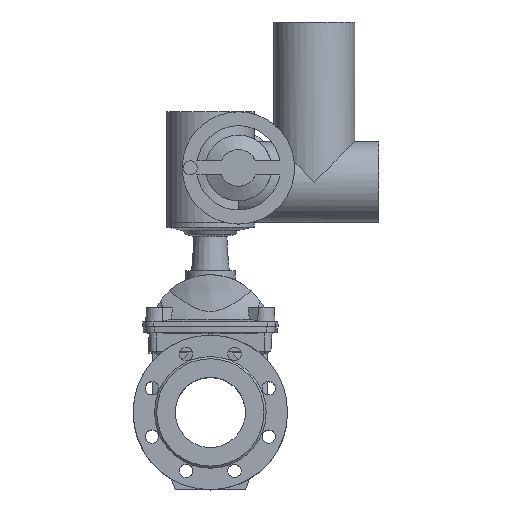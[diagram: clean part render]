
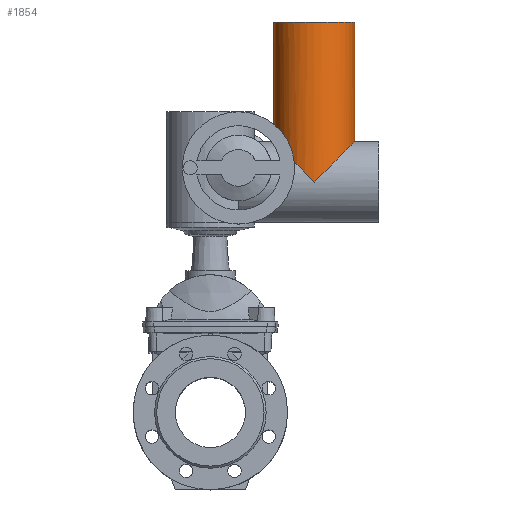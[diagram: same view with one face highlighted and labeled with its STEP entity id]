
A CAD part, top view. The second image highlights one B-rep face of the part: STEP entity #1854.
In plain terms, the highlighted cylindrical face has radius 57.5 mm (diameter 115 mm), a full revolution.
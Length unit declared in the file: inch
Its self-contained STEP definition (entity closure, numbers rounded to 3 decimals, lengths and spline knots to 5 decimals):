
#88 = CARTESIAN_POINT ( 'NONE',  ( 5.82677, 12.92126, -1.67323 ) ) ;
#136 = CARTESIAN_POINT ( 'NONE',  ( 5.82677, 12.92126, 2.85433 ) ) ;
#607 = AXIS2_PLACEMENT_3D ( 'NONE', #5551, #5548, #5544 ) ;
#1067 = VERTEX_POINT ( 'NONE', #88 ) ;
#1115 = VERTEX_POINT ( 'NONE', #136 ) ;
#1854 = ADVANCED_FACE ( 'NONE', ( #6258, #6261 ), #6263, .T. ) ;
#2501 = EDGE_LOOP ( 'NONE', ( #3177 ) ) ;
#2511 = EDGE_LOOP ( 'NONE', ( #3178, #3179 ) ) ;
#3177 = ORIENTED_EDGE ( 'NONE', *, *, #7283, .F. ) ;
#3178 = ORIENTED_EDGE ( 'NONE', *, *, #7258, .F. ) ;
#3179 = ORIENTED_EDGE ( 'NONE', *, *, #7266, .F. ) ;
#5289 = AXIS2_PLACEMENT_3D ( 'NONE', #9839, #9840, #9842 ) ;
#5394 =( BOUNDED_CURVE ( )  B_SPLINE_CURVE ( 3, ( #9767, #9755, #9770, #9771 ),
 .UNSPECIFIED., .F., .F. ) 
 B_SPLINE_CURVE_WITH_KNOTS ( ( 4, 4 ),
 ( 4.71239, 7.85398 ),
 .UNSPECIFIED. ) 
 CURVE ( )  GEOMETRIC_REPRESENTATION_ITEM ( )  RATIONAL_B_SPLINE_CURVE ( ( 1., 0.333, 0.333, 1. ) ) 
 REPRESENTATION_ITEM ( '' )  );
#5458 =( BOUNDED_CURVE ( )  B_SPLINE_CURVE ( 3, ( #9743, #9724, #9745, #9746 ),
 .UNSPECIFIED., .F., .F. ) 
 B_SPLINE_CURVE_WITH_KNOTS ( ( 4, 4 ),
 ( 1.5708, 4.71239 ),
 .UNSPECIFIED. ) 
 CURVE ( )  GEOMETRIC_REPRESENTATION_ITEM ( )  RATIONAL_B_SPLINE_CURVE ( ( 1., 0.333, 0.333, 1. ) ) 
 REPRESENTATION_ITEM ( '' )  );
#5544 = DIRECTION ( 'NONE',  ( 0., 0., 1. ) ) ;
#5548 = DIRECTION ( 'NONE',  ( 0., 1., 0. ) ) ;
#5551 = CARTESIAN_POINT ( 'NONE',  ( 5.82677, 12.92126, 0.59055 ) ) ;
#6258 = FACE_OUTER_BOUND ( 'NONE', #2501, .T. ) ;
#6261 = FACE_OUTER_BOUND ( 'NONE', #2511, .T. ) ;
#6263 = CYLINDRICAL_SURFACE ( 'NONE', #607, 2.26378 ) ;
#7258 = EDGE_CURVE ( 'NONE', #1067, #1115, #5458, .T. ) ;
#7266 = EDGE_CURVE ( 'NONE', #1115, #1067, #5394, .T. ) ;
#7283 = EDGE_CURVE ( 'NONE', #9299, #9299, #8786, .T. ) ;
#8786 = CIRCLE ( 'NONE', #5289, 2.26378 ) ;
#9299 = VERTEX_POINT ( 'NONE', #11305 ) ;
#9724 = CARTESIAN_POINT ( 'NONE',  ( 10.35433, 17.44882, -1.67323 ) ) ;
#9743 = CARTESIAN_POINT ( 'NONE',  ( 5.82677, 12.92126, -1.67323 ) ) ;
#9745 = CARTESIAN_POINT ( 'NONE',  ( 10.35433, 17.44882, 2.85433 ) ) ;
#9746 = CARTESIAN_POINT ( 'NONE',  ( 5.82677, 12.92126, 2.85433 ) ) ;
#9755 = CARTESIAN_POINT ( 'NONE',  ( 1.29921, 17.44882, 2.85433 ) ) ;
#9767 = CARTESIAN_POINT ( 'NONE',  ( 5.82677, 12.92126, 2.85433 ) ) ;
#9770 = CARTESIAN_POINT ( 'NONE',  ( 1.29921, 17.44882, -1.67323 ) ) ;
#9771 = CARTESIAN_POINT ( 'NONE',  ( 5.82677, 12.92126, -1.67323 ) ) ;
#9839 = CARTESIAN_POINT ( 'NONE',  ( 5.82677, 21.89764, 0.59055 ) ) ;
#9840 = DIRECTION ( 'NONE',  ( 0., 1., 0. ) ) ;
#9842 = DIRECTION ( 'NONE',  ( 0., 0., 1. ) ) ;
#11305 = CARTESIAN_POINT ( 'NONE',  ( 5.82677, 21.89764, 2.85433 ) ) ;
